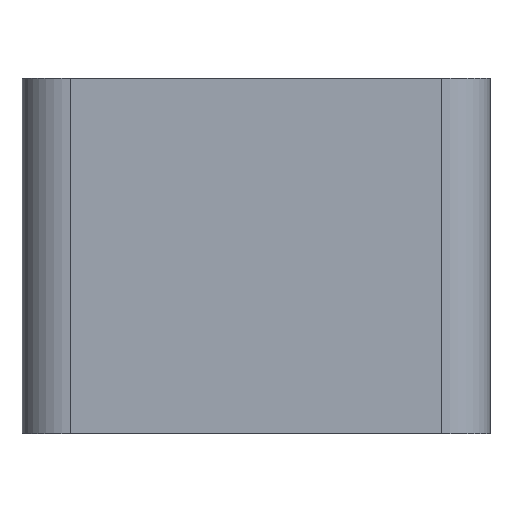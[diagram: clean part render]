
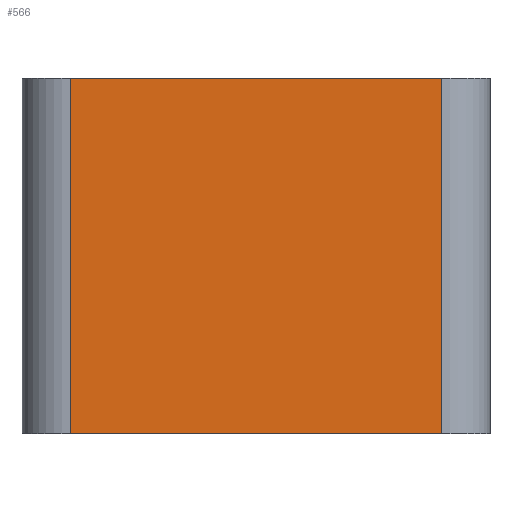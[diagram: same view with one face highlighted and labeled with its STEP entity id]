
A CAD part, front view. The second image highlights one B-rep face of the part: STEP entity #566.
In plain terms, the highlighted planar face has unit normal (0, -1, 0).
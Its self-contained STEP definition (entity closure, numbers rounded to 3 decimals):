
#44 = PLANE('',#45);
#45 = AXIS2_PLACEMENT_3D('',#46,#47,#48);
#46 = CARTESIAN_POINT('',(-47.5,-35.,-9.));
#47 = DIRECTION('',(0.,0.,1.));
#48 = DIRECTION('',(1.,0.,0.));
#72 = CYLINDRICAL_SURFACE('',#73,3.);
#73 = AXIS2_PLACEMENT_3D('',#74,#75,#76);
#74 = CARTESIAN_POINT('',(-50.5,-32.,-31.));
#75 = DIRECTION('',(-0.,-0.,1.));
#76 = DIRECTION('',(1.,-0.,0.));
#100 = PLANE('',#101);
#101 = AXIS2_PLACEMENT_3D('',#102,#103,#104);
#102 = CARTESIAN_POINT('',(-47.5,-35.,-31.));
#103 = DIRECTION('',(0.,0.,1.));
#104 = DIRECTION('',(1.,0.,0.));
#143 = VERTEX_POINT('',#144);
#144 = CARTESIAN_POINT('',(-50.5,-35.,-9.));
#170 = EDGE_CURVE('',#143,#171,#173,.T.);
#171 = VERTEX_POINT('',#172);
#172 = CARTESIAN_POINT('',(-73.5,-35.,-9.));
#173 = SURFACE_CURVE('',#174,(#178,#185),.PCURVE_S1.);
#174 = LINE('',#175,#176);
#175 = CARTESIAN_POINT('',(-47.5,-35.,-9.));
#176 = VECTOR('',#177,1.);
#177 = DIRECTION('',(-1.,-0.,0.));
#178 = PCURVE('',#44,#179);
#179 = DEFINITIONAL_REPRESENTATION('',(#180),#184);
#180 = LINE('',#181,#182);
#181 = CARTESIAN_POINT('',(0.,-0.));
#182 = VECTOR('',#183,1.);
#183 = DIRECTION('',(-1.,0.));
#184 = ( GEOMETRIC_REPRESENTATION_CONTEXT(2) 
PARAMETRIC_REPRESENTATION_CONTEXT() REPRESENTATION_CONTEXT('2D SPACE',''
  ) );
#185 = PCURVE('',#186,#191);
#186 = PLANE('',#187);
#187 = AXIS2_PLACEMENT_3D('',#188,#189,#190);
#188 = CARTESIAN_POINT('',(-47.5,-35.,-31.));
#189 = DIRECTION('',(-0.,1.,0.));
#190 = DIRECTION('',(0.,0.,-1.));
#191 = DEFINITIONAL_REPRESENTATION('',(#192),#196);
#192 = LINE('',#193,#194);
#193 = CARTESIAN_POINT('',(-22.,-0.));
#194 = VECTOR('',#195,1.);
#195 = DIRECTION('',(-0.,1.));
#196 = ( GEOMETRIC_REPRESENTATION_CONTEXT(2) 
PARAMETRIC_REPRESENTATION_CONTEXT() REPRESENTATION_CONTEXT('2D SPACE',''
  ) );
#215 = CYLINDRICAL_SURFACE('',#216,3.);
#216 = AXIS2_PLACEMENT_3D('',#217,#218,#219);
#217 = CARTESIAN_POINT('',(-73.5,-32.,-31.));
#218 = DIRECTION('',(-0.,-0.,1.));
#219 = DIRECTION('',(-1.,-0.,-0.));
#342 = VERTEX_POINT('',#343);
#343 = CARTESIAN_POINT('',(-50.5,-35.,-31.));
#369 = EDGE_CURVE('',#342,#143,#370,.T.);
#370 = SURFACE_CURVE('',#371,(#375,#382),.PCURVE_S1.);
#371 = LINE('',#372,#373);
#372 = CARTESIAN_POINT('',(-50.5,-35.,-31.));
#373 = VECTOR('',#374,1.);
#374 = DIRECTION('',(-0.,-0.,1.));
#375 = PCURVE('',#72,#376);
#376 = DEFINITIONAL_REPRESENTATION('',(#377),#381);
#377 = LINE('',#378,#379);
#378 = CARTESIAN_POINT('',(-1.571,0.));
#379 = VECTOR('',#380,1.);
#380 = DIRECTION('',(-0.,1.));
#381 = ( GEOMETRIC_REPRESENTATION_CONTEXT(2) 
PARAMETRIC_REPRESENTATION_CONTEXT() REPRESENTATION_CONTEXT('2D SPACE',''
  ) );
#382 = PCURVE('',#186,#383);
#383 = DEFINITIONAL_REPRESENTATION('',(#384),#388);
#384 = LINE('',#385,#386);
#385 = CARTESIAN_POINT('',(-0.,3.));
#386 = VECTOR('',#387,1.);
#387 = DIRECTION('',(-1.,-0.));
#388 = ( GEOMETRIC_REPRESENTATION_CONTEXT(2) 
PARAMETRIC_REPRESENTATION_CONTEXT() REPRESENTATION_CONTEXT('2D SPACE',''
  ) );
#447 = EDGE_CURVE('',#342,#448,#450,.T.);
#448 = VERTEX_POINT('',#449);
#449 = CARTESIAN_POINT('',(-73.5,-35.,-31.));
#450 = SURFACE_CURVE('',#451,(#455,#462),.PCURVE_S1.);
#451 = LINE('',#452,#453);
#452 = CARTESIAN_POINT('',(-47.5,-35.,-31.));
#453 = VECTOR('',#454,1.);
#454 = DIRECTION('',(-1.,-0.,0.));
#455 = PCURVE('',#100,#456);
#456 = DEFINITIONAL_REPRESENTATION('',(#457),#461);
#457 = LINE('',#458,#459);
#458 = CARTESIAN_POINT('',(0.,-0.));
#459 = VECTOR('',#460,1.);
#460 = DIRECTION('',(-1.,0.));
#461 = ( GEOMETRIC_REPRESENTATION_CONTEXT(2) 
PARAMETRIC_REPRESENTATION_CONTEXT() REPRESENTATION_CONTEXT('2D SPACE',''
  ) );
#462 = PCURVE('',#186,#463);
#463 = DEFINITIONAL_REPRESENTATION('',(#464),#468);
#464 = LINE('',#465,#466);
#465 = CARTESIAN_POINT('',(-0.,-0.));
#466 = VECTOR('',#467,1.);
#467 = DIRECTION('',(-0.,1.));
#468 = ( GEOMETRIC_REPRESENTATION_CONTEXT(2) 
PARAMETRIC_REPRESENTATION_CONTEXT() REPRESENTATION_CONTEXT('2D SPACE',''
  ) );
#566 = ADVANCED_FACE('',(#567),#186,.F.);
#567 = FACE_BOUND('',#568,.T.);
#568 = EDGE_LOOP('',(#569,#570,#571,#572));
#569 = ORIENTED_EDGE('',*,*,#447,.F.);
#570 = ORIENTED_EDGE('',*,*,#369,.T.);
#571 = ORIENTED_EDGE('',*,*,#170,.T.);
#572 = ORIENTED_EDGE('',*,*,#573,.F.);
#573 = EDGE_CURVE('',#448,#171,#574,.T.);
#574 = SURFACE_CURVE('',#575,(#579,#586),.PCURVE_S1.);
#575 = LINE('',#576,#577);
#576 = CARTESIAN_POINT('',(-73.5,-35.,-31.));
#577 = VECTOR('',#578,1.);
#578 = DIRECTION('',(-0.,-0.,1.));
#579 = PCURVE('',#186,#580);
#580 = DEFINITIONAL_REPRESENTATION('',(#581),#585);
#581 = LINE('',#582,#583);
#582 = CARTESIAN_POINT('',(-0.,26.));
#583 = VECTOR('',#584,1.);
#584 = DIRECTION('',(-1.,-0.));
#585 = ( GEOMETRIC_REPRESENTATION_CONTEXT(2) 
PARAMETRIC_REPRESENTATION_CONTEXT() REPRESENTATION_CONTEXT('2D SPACE',''
  ) );
#586 = PCURVE('',#215,#587);
#587 = DEFINITIONAL_REPRESENTATION('',(#588),#592);
#588 = LINE('',#589,#590);
#589 = CARTESIAN_POINT('',(1.571,0.));
#590 = VECTOR('',#591,1.);
#591 = DIRECTION('',(0.,1.));
#592 = ( GEOMETRIC_REPRESENTATION_CONTEXT(2) 
PARAMETRIC_REPRESENTATION_CONTEXT() REPRESENTATION_CONTEXT('2D SPACE',''
  ) );
